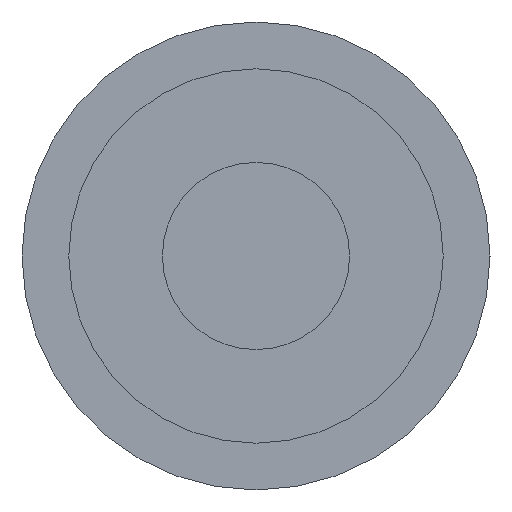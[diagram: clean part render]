
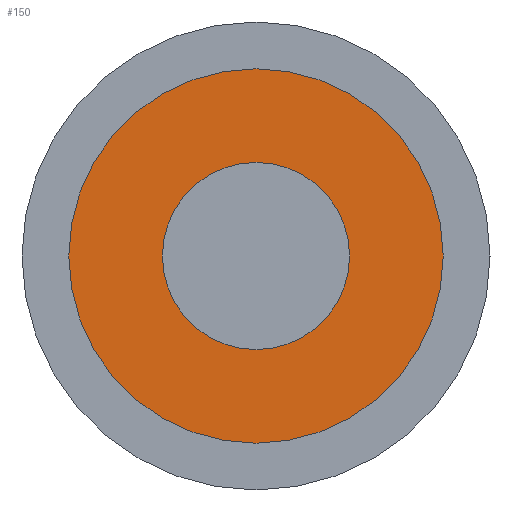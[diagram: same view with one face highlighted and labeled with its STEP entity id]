
A CAD part, left-side view. The second image highlights one B-rep face of the part: STEP entity #150.
In plain terms, the highlighted planar face has unit normal (-1, 0, 0) as drawn and (0, -1, 0) by its records, which use the part's own axes.
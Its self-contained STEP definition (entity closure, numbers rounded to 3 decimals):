
#31 = ORIENTED_EDGE ( 'NONE', *, *, #149, .F. ) ;
#32 = EDGE_LOOP ( 'NONE', ( #31, #123 ) ) ;
#66 = VERTEX_POINT ( 'NONE', #305 ) ;
#68 = VERTEX_POINT ( 'NONE', #304 ) ;
#72 = EDGE_CURVE ( 'NONE', #73, #74, #354, .T. ) ;
#73 = VERTEX_POINT ( 'NONE', #349 ) ;
#74 = VERTEX_POINT ( 'NONE', #348 ) ;
#121 = ORIENTED_EDGE ( 'NONE', *, *, #122, .F. ) ;
#122 = EDGE_CURVE ( 'NONE', #74, #73, #373, .T. ) ;
#123 = ORIENTED_EDGE ( 'NONE', *, *, #185, .F. ) ;
#149 = EDGE_CURVE ( 'NONE', #68, #66, #483, .T. ) ;
#150 = ADVANCED_FACE ( 'NONE', ( #478, #477 ), #476, .F. ) ;
#183 = ORIENTED_EDGE ( 'NONE', *, *, #72, .F. ) ;
#184 = EDGE_LOOP ( 'NONE', ( #183, #121 ) ) ;
#185 = EDGE_CURVE ( 'NONE', #66, #68, #492, .T. ) ;
#304 = CARTESIAN_POINT ( 'NONE',  ( 0., 0., -1. ) ) ;
#305 = CARTESIAN_POINT ( 'NONE',  ( 0., 0., 1. ) ) ;
#348 = CARTESIAN_POINT ( 'NONE',  ( 0., 0., 0.5 ) ) ;
#349 = CARTESIAN_POINT ( 'NONE',  ( 0., 0., -0.5 ) ) ;
#350 = DIRECTION ( 'NONE',  ( 0., 0., 1. ) ) ;
#351 = DIRECTION ( 'NONE',  ( 0., -1., 0. ) ) ;
#352 = CARTESIAN_POINT ( 'NONE',  ( 0., 0., 0. ) ) ;
#353 = AXIS2_PLACEMENT_3D ( 'NONE', #352, #351, #350 ) ;
#354 = CIRCLE ( 'NONE', #353, 0.5 ) ;
#369 = DIRECTION ( 'NONE',  ( 0., 0., 1. ) ) ;
#370 = DIRECTION ( 'NONE',  ( 0., -1., 0. ) ) ;
#371 = CARTESIAN_POINT ( 'NONE',  ( 0., 0., 0. ) ) ;
#372 = AXIS2_PLACEMENT_3D ( 'NONE', #371, #370, #369 ) ;
#373 = CIRCLE ( 'NONE', #372, 0.5 ) ;
#408 = DIRECTION ( 'NONE',  ( 0., 0., 1. ) ) ;
#409 = DIRECTION ( 'NONE',  ( 0., 1., 0. ) ) ;
#410 = CARTESIAN_POINT ( 'NONE',  ( 0., 0., 0. ) ) ;
#411 = AXIS2_PLACEMENT_3D ( 'NONE', #410, #409, #408 ) ;
#472 = DIRECTION ( 'NONE',  ( 0., 0., 1. ) ) ;
#473 = DIRECTION ( 'NONE',  ( 0., 1., 0. ) ) ;
#474 = CARTESIAN_POINT ( 'NONE',  ( 0., 0., 0. ) ) ;
#475 = AXIS2_PLACEMENT_3D ( 'NONE', #474, #473, #472 ) ;
#476 = PLANE ( 'NONE',  #475 ) ;
#477 = FACE_BOUND ( 'NONE', #184, .T. ) ;
#478 = FACE_OUTER_BOUND ( 'NONE', #32, .T. ) ;
#479 = DIRECTION ( 'NONE',  ( 0., 0., 1. ) ) ;
#480 = DIRECTION ( 'NONE',  ( 0., 1., 0. ) ) ;
#481 = CARTESIAN_POINT ( 'NONE',  ( 0., 0., 0. ) ) ;
#482 = AXIS2_PLACEMENT_3D ( 'NONE', #481, #480, #479 ) ;
#483 = CIRCLE ( 'NONE', #482, 1. ) ;
#492 = CIRCLE ( 'NONE', #411, 1. ) ;
